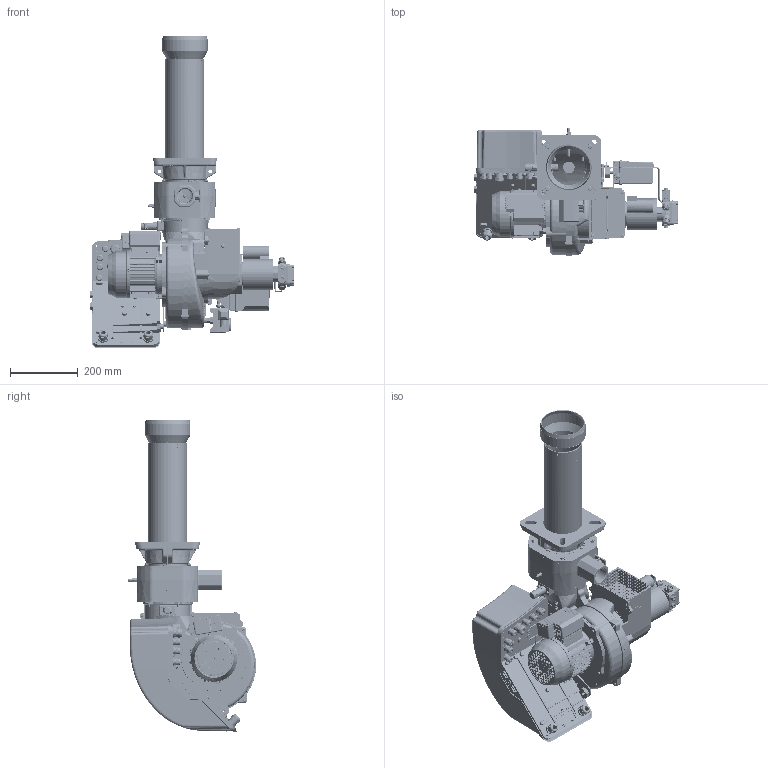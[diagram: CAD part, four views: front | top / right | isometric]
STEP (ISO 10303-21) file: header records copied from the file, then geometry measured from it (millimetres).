
FILE_DESCRIPTION (( 'STEP AP214' ), '1' );
FILE_NAME ('54810010.STEP', '2025-04-09T13:23:49', ( '' ), ( '' ), 'SwSTEP 2.0', 'SolidWorks 2021', '' );
FILE_SCHEMA (( 'AUTOMOTIVE_DESIGN' ));
Length unit declared in the file: millimetre
Products named in the file (121): 0020030020-194769-AUTO; 0020020031-106906; 0005030231-163596; 0020040052-145673; 0006111302-194699; 0024010019-03687; 30837-112327; plain washer large grade ac_iso_Washer ISO 7093 - 4; 0020030005-194806-AUTO; 0024020130-183786; 49319-130713; 0005140236-112149; 0005120257-182447; hexalobular socket pan head_iso_2_ISO 14583 - M4 x 35 -4.8-C; 0005030310-132404; 23527-111492; hexalobular socket pan head_iso_ISO 14583 - M4 x 16 -4.8-C; 0020010124-194963-AUTO; hexalobular socket pan head_iso_ISO 14583 - M4 x 8 -4.8-C; 0020010124-194962-AUTO; 8020010003-103862; 49336-106919; 849320-130716; 28718-103072; hexalobular socket pan head_iso_ISO 14583 - M5 x 15 -4.8-C; 0020030021-194779; 0005010100-152260; 0020020030-104722; 0025030024-106328; 0024020125-183664; 53024-122715; 0020010122-106911; 0005110093-122275; 0020020110-194800; 0006111301-194777; 0025010036-106301; 0005140281-03464; 0006050223-183922; serrated lock washer 1_din_DIN 6798-A5.3; 0005120126-100525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
Assembly tree (195 placements, depth 4):
  54810010
    0006111301-194777
      0025030066-162876
      0025030010-106321
      0020040004-106331
      0006020143-103192  x2
      31483-01527
      0020040001-103865
      0020030021-194779
      0025030024-106328  x4
      hex flange nut_tensilock_din_Hexagon Flange Nut DIN 6923 - M6 - C  x4
      0020030038-200154
      hexalobular socket pan head_iso_ISO 14583 - M5 x 8 -4.8-C  x4
      0023020037-135984
        0023020037-135985-AUTO
        0023020037-135987-AUTO
      serrated lock washer 1_din_DIN 6798-A5.3  x4
    0006111302-194699
      0020030028-194815
        0020010002-143249
        0020010004-106469
        8020010003-103862
        hexalobular socket pan head_iso_ISO 14583 - M5 x 20 -4.8-C  x8
        hexalobular socket pan head_iso_ISO 14583 - M5 x 12 -4.8-C  x2
        0020010001-143262
      0020010019-104073
      19729-103763
      0020020031-106906
      0020010122-106911
        0020010011-106908
        0020010122-106912-AUTO
      0019010010-106913
      0020010123-112955
      0005140458-03560  x2
      hexalobular socket pan head_iso_ISO 14583 - M5 x 8 -4.8-C  x4
    0020020030-104722
    4314-02235
    0020010061-123169
    49336-106919
    49335-106318
    19603-149280
    0005010059-106924
    28718-103072  x3
    0025040028-106338
    0005040062-03462
    0005140236-112149  x2
    0005030261-106060
    30837-112327
    0005030310-132404
    0020040052-145673
    0020030020-194745
      0020030020-194746-AUTO
      0020030020-194769-AUTO
      0020030020-194770-AUTO
    0005010131-102741
    0005010100-152260
    0005060003-105854
    0020030005-194805
      0020030005-194806-AUTO
      50093-103661
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Bounding box: 600.05 x 378.38 x 921.81 mm (x, y, z)
Volume: 7302584.5 mm3; surface area: 3722947.6 mm2
Topology: 274 solids, 494 shells, 20479 faces, 54207 edges, 34775 vertices
Faces by surface type: plane 10159, cylinder 4772, bspline 3192, cone 1212, torus 844, sphere 300
Full cylindrical faces by diameter (mm): 1 x11, 1.5 x1, 1.65 x6, 1.7 x4, 2 x17, 2.39 x3, 2.4 x6, 2.438 x2, 2.5 x13, 2.58 x10, 2.75 x2, 2.8 x3, 2.85 x1, 3 x44, 3.1 x11, 3.15 x10, 3.2 x4, 3.3 x5, 3.4 x1, 3.5 x19, 3.58 x4, 3.6 x17, 3.621 x8, 3.7 x4, 3.82 x2, 3.838 x1, 3.9 x4, 3.95 x12, 4 x50, 4.1 x5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
Entity records: 830151 total; most frequent: CARTESIAN_POINT 387633, ORIENTED_EDGE 84887, DIRECTION 71344, EDGE_CURVE 43760, VERTEX_POINT 29166, AXIS2_PLACEMENT_3D 23907, VECTOR 23530, LINE 23530
